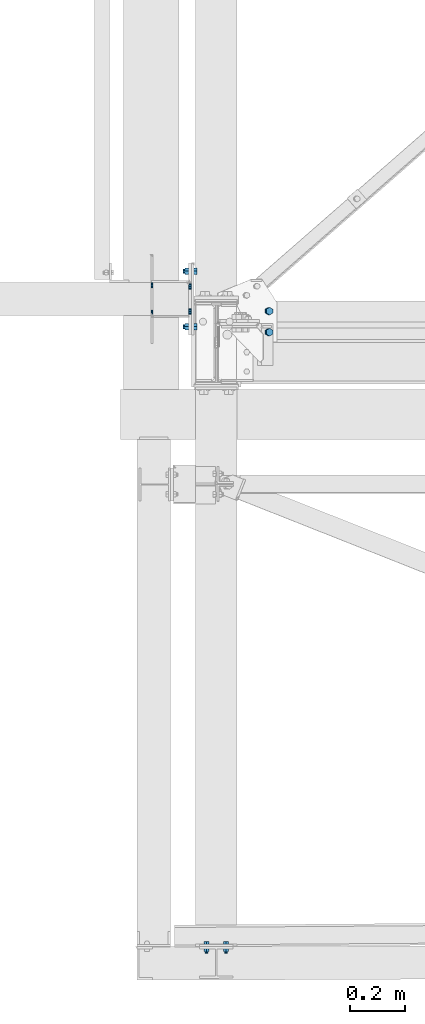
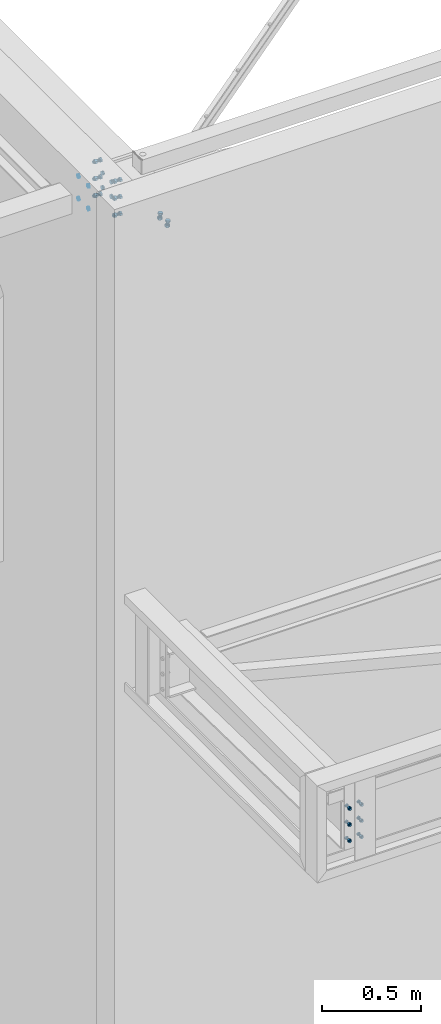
# One storey, part 20 of 3134: 5 mechanical fasteners, 4 elements without a shape of their own.
"""IFC2X3 building model written with IfcOpenShell, lengths in millimetres."""

from ifc_helpers import new_model, si_unit, frame, origin_with_axes, place, context, subcontext, project, spatial, faceted_brep, source, transform, mapped, material, type_object, element, aggregate, save


model = new_model("IFC2X3")

# Units and contexts
model_context = context("Model", 3, precision=1e-05, world=origin_with_axes())
body_context = subcontext(model_context, "Body", "Model", "MODEL_VIEW")
ifc_project = project(units=[si_unit("LENGTHUNIT", "METRE", prefix="MILLI"), si_unit("AREAUNIT", "SQUARE_METRE"), si_unit("VOLUMEUNIT", "CUBIC_METRE"), si_unit("MASSUNIT", "GRAM", prefix="KILO"), si_unit("TIMEUNIT", "SECOND"), si_unit("PLANEANGLEUNIT", "RADIAN"), si_unit("SOLIDANGLEUNIT", "STERADIAN"), si_unit("THERMODYNAMICTEMPERATUREUNIT", "DEGREE_CELSIUS"), si_unit("LUMINOUSINTENSITYUNIT", "LUMEN")], contexts=[model_context])

# Site, building, storey
site_placement = place(None, origin_with_axes())
site = spatial("IfcSite", under=ifc_project, at=site_placement, CompositionType="ELEMENT")
building_placement = place(site_placement, origin_with_axes())
building = spatial("IfcBuilding", under=site, at=building_placement, Name="Undefined", CompositionType="ELEMENT")
storey_placement = place(building_placement, origin_with_axes())
storey = spatial("IfcBuildingStorey", under=building, at=storey_placement, Name="Undefined", CompositionType="ELEMENT", Elevation=0.0)

# Assembly, mechanical fastener
assembly_1_placement = place(storey_placement, origin_with_axes())
assembly_1 = element("IfcElementAssembly", 1, at=assembly_1_placement, inside=storey, Name="UPN120", AssemblyPlace="NOTDEFINED", PredefinedType="RIGID_FRAME")
ifc_material = material(Name="8.8")
mechanical_fastener_type = type_object("IfcMechanicalFastenerType", Name="Bolt assembly")
shared_shape_1 = source(origin_with_axes(), body_context, "Body", "Brep", [
    faceted_brep([(10.9696551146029, -7.99980031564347, 0.0), (5.48482755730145, -7.99980031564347, 9.5), (-5.48482755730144, -7.99980031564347, 9.5), (-10.9696551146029, -7.99980031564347, 1.34339530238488e-15), (-5.48482755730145, -7.99980031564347, -9.5), (5.48482755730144, -7.99980031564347, -9.50000000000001), (5.48482755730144, 0.000199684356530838, -9.50000000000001), (-5.48482755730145, 0.000199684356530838, -9.5), (-10.9696551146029, 0.000199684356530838, 1.34339530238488e-15), (-5.48482755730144, 0.000199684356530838, 9.5), (5.48482755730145, 0.000199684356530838, 9.5), (10.9696551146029, 0.000199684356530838, 0.0), (6.0, 0.000199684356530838, 0.0), (5.19615242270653, 0.000199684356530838, 3.00000000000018), (2.99999999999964, 0.000199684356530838, 5.19615242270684), (-6.21801588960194e-13, 0.000199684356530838, 6.0), (-3.00000000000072, 0.000199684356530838, 5.19615242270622), (-5.19615242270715, 0.000199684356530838, 2.9999999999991), (-6.0, 0.000199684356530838, -1.24360317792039e-12), (-5.19615242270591, 0.000199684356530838, -3.00000000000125), (-2.99999999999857, 0.000199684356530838, -5.19615242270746), (1.85874342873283e-12, 0.000199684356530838, -6.0), (3.00000000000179, 0.000199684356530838, -5.1961524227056), (5.19615242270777, 0.000199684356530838, -2.99999999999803), (5.19615242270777, 35.0001996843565, -2.99999999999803), (3.00000000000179, 35.0001996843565, -5.1961524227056), (1.85874342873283e-12, 35.0001996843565, -6.0), (-2.99999999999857, 35.0001996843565, -5.19615242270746), (-5.19615242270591, 35.0001996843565, -3.00000000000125), (-6.0, 35.0001996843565, -1.24360317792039e-12), (-5.19615242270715, 35.0001996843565, 2.9999999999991), (-3.00000000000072, 35.0001996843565, 5.19615242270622), (-6.21801588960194e-13, 35.0001996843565, 6.0), (2.99999999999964, 35.0001996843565, 5.19615242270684), (5.19615242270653, 35.0001996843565, 3.00000000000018), (6.0, 35.0001996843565, 0.0), (10.9696551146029, 18.0000503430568, 0.0), (5.48482755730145, 18.0000503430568, 9.5), (-5.48482755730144, 18.0000503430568, 9.5), (-10.9696551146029, 18.0000503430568, 1.34339530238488e-15), (-5.48482755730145, 18.0000503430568, -9.5), (5.48482755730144, 18.0000503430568, -9.50000000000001), (5.48482755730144, 28.0000503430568, -9.50000000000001), (-5.48482755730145, 28.0000503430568, -9.5), (-10.9696551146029, 28.0000503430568, 1.34339530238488e-15), (-5.48482755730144, 28.0000503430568, 9.5), (5.48482755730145, 28.0000503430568, 9.5), (10.9696551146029, 28.0000503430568, 0.0)], [[[0, 1, 2, 3, 4, 5]], [[6, 7, 8, 9, 10, 11]], [[0, 11, 10, 1]], [[1, 10, 9, 2]], [[2, 9, 8, 3]], [[3, 8, 7, 4]], [[4, 7, 6, 5]], [[5, 6, 11, 0]], [[12, 13, 14, 15, 16, 17, 18, 19, 20, 21, 22, 23]], [[24, 25, 26, 27, 28, 29, 30, 31, 32, 33, 34, 35]], [[12, 35, 34, 13]], [[13, 34, 33, 14]], [[14, 33, 32, 15]], [[15, 32, 31, 16]], [[16, 31, 30, 17]], [[17, 30, 29, 18]], [[18, 29, 28, 19]], [[19, 28, 27, 20]], [[20, 27, 26, 21]], [[21, 26, 25, 22]], [[22, 25, 24, 23]], [[23, 24, 35, 12]], [[36, 37, 38, 39, 40, 41]], [[42, 43, 44, 45, 46, 47]], [[36, 47, 46, 37]], [[37, 46, 45, 38]], [[38, 45, 44, 39]], [[39, 44, 43, 40]], [[40, 43, 42, 41]], [[41, 42, 47, 36]]]),
    faceted_brep([(7.0, 0.100152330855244, 0.0), (6.06217782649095, 0.100152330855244, 3.50000000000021), (3.49999999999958, 0.100152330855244, 6.06217782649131), (-7.25435187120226e-13, 0.100152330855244, 7.0), (-3.50000000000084, 0.100152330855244, 6.06217782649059), (-6.06217782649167, 0.100152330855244, 3.49999999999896), (-7.0, 0.100152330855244, -1.45087037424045e-12), (-6.06217782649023, 0.100152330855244, -3.50000000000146), (-3.49999999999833, 0.100152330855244, -6.06217782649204), (2.1685340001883e-12, 0.100152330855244, -7.0), (3.50000000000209, 0.100152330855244, -6.06217782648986), (6.0621778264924, 0.100152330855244, -3.4999999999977), (6.0621778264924, 10.1001996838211, -3.4999999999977), (3.50000000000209, 10.1001996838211, -6.06217782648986), (2.1685340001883e-12, 10.1001996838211, -7.0), (-3.49999999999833, 10.1001996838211, -6.06217782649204), (-6.06217782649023, 10.1001996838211, -3.50000000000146), (-7.0, 10.1001996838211, -1.45087037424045e-12), (-6.06217782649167, 10.1001996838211, 3.49999999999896), (-3.50000000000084, 10.1001996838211, 6.06217782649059), (-7.25435187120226e-13, 10.1001996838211, 7.0), (3.49999999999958, 10.1001996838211, 6.06217782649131), (6.06217782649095, 10.1001996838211, 3.50000000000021), (7.0, 10.1001996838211, 0.0), (7.0, 9.90005034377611, 0.0), (6.06217782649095, 9.90005034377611, 3.50000000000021), (3.49999999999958, 9.90005034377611, 6.06217782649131), (-7.25435187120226e-13, 9.90005034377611, 7.0), (-3.50000000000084, 9.90005034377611, 6.06217782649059), (-6.06217782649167, 9.90005034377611, 3.49999999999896), (-7.0, 9.90005034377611, -1.45087037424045e-12), (-6.06217782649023, 9.90005034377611, -3.50000000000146), (-3.49999999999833, 9.90005034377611, -6.06217782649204), (2.1685340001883e-12, 9.90005034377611, -7.0), (3.50000000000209, 9.90005034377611, -6.06217782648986), (6.0621778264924, 9.90005034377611, -3.4999999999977), (6.0621778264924, 18.0000503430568, -3.4999999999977), (3.50000000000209, 18.0000503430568, -6.06217782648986), (2.1685340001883e-12, 18.0000503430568, -7.0), (-3.49999999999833, 18.0000503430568, -6.06217782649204), (-6.06217782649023, 18.0000503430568, -3.50000000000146), (-7.0, 18.0000503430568, -1.45087037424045e-12), (-6.06217782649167, 18.0000503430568, 3.49999999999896), (-3.50000000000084, 18.0000503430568, 6.06217782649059), (-7.25435187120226e-13, 18.0000503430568, 7.0), (3.49999999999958, 18.0000503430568, 6.06217782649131), (6.06217782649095, 18.0000503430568, 3.50000000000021), (7.0, 18.0000503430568, 0.0)], [[[0, 1, 2, 3, 4, 5, 6, 7, 8, 9, 10, 11]], [[12, 13, 14, 15, 16, 17, 18, 19, 20, 21, 22, 23]], [[0, 23, 22, 1]], [[1, 22, 21, 2]], [[2, 21, 20, 3]], [[3, 20, 19, 4]], [[4, 19, 18, 5]], [[5, 18, 17, 6]], [[6, 17, 16, 7]], [[7, 16, 15, 8]], [[8, 15, 14, 9]], [[9, 14, 13, 10]], [[10, 13, 12, 11]], [[11, 12, 23, 0]], [[24, 25, 26, 27, 28, 29, 30, 31, 32, 33, 34, 35]], [[36, 37, 38, 39, 40, 41, 42, 43, 44, 45, 46, 47]], [[24, 47, 46, 25]], [[25, 46, 45, 26]], [[26, 45, 44, 27]], [[27, 44, 43, 28]], [[28, 43, 42, 29]], [[29, 42, 41, 30]], [[30, 41, 40, 31]], [[31, 40, 39, 32]], [[32, 39, 38, 33]], [[33, 38, 37, 34]], [[34, 37, 36, 35]], [[35, 36, 47, 24]]]),
])
mechanical_fastener_1_placement = place(assembly_1_placement, frame((20850.0047974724, -2244.67493834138, 3310.21815992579), z_axis=(-0.999998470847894, -0.00174880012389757, 0.0), x_axis=(0.0, 0.0, -1.0)))
mechanical_fastener_1 = element("IfcMechanicalFastener", 2, at=mechanical_fastener_1_placement, type_object=mechanical_fastener_type, material=ifc_material, Name="Bolt assembly", NominalDiameter=12.0, NominalLength=35.0, context=body_context, shape_type="MappedRepresentation", body=[
    mapped(shared_shape_1, transform((0.0, 0.0, -35.0))),
    mapped(shared_shape_1, transform((100.0, 2.05545802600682e-10, -35.0000000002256))),
    mapped(shared_shape_1, transform((200.0, 2.05545802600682e-10, -35.0000000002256))),
    mapped(shared_shape_1, transform((0.0, 0.0, 35.0))),
    mapped(shared_shape_1, transform((100.0, -2.07364792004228e-10, 35.0000000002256))),
    mapped(shared_shape_1, transform((200.0, -2.07364792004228e-10, 35.0000000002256))),
])
aggregate(assembly_1, [mechanical_fastener_1])

# Assembly, mechanical fasteners
assembly_2_placement = place(storey_placement, origin_with_axes())
assembly_2 = element("IfcElementAssembly", 3, at=assembly_2_placement, inside=storey, AssemblyPlace="NOTDEFINED", PredefinedType="RIGID_FRAME")
shared_shape_2 = source(origin_with_axes(), body_context, "Body", "Brep", [
    faceted_brep([(9.0, -3.46568413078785e-07, 0.0), (7.79422863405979, -3.46568413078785e-07, 4.50000000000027), (4.49999999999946, -3.46568413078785e-07, 7.79422863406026), (-9.3270238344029e-13, -3.46568413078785e-07, 9.0), (-4.50000000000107, -3.46568413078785e-07, 7.79422863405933), (-7.79422863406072, -3.46568413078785e-07, 4.49999999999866), (-9.0, -3.46568413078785e-07, -1.86540476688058e-12), (-7.79422863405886, -3.46568413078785e-07, -4.50000000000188), (-4.49999999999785, -3.46568413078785e-07, -7.79422863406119), (2.78811514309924e-12, -3.46568413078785e-07, -9.0), (4.50000000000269, -3.46568413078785e-07, -7.7942286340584), (7.79422863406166, -3.46568413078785e-07, -4.49999999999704), (7.79422863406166, 6.1, -4.49999999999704), (4.50000000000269, 6.1, -7.7942286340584), (2.78811514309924e-12, 6.1, -9.0), (-4.49999999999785, 6.1, -7.79422863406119), (-7.79422863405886, 6.1, -4.50000000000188), (-9.0, 6.1, -1.86540476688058e-12), (-7.79422863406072, 6.1, 4.49999999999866), (-4.50000000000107, 6.1, 7.79422863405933), (-9.3270238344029e-13, 6.1, 9.0), (4.49999999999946, 6.1, 7.79422863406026), (7.79422863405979, 6.1, 4.50000000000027), (9.0, 6.1, 0.0)], [[[0, 1, 2, 3, 4, 5, 6, 7, 8, 9, 10, 11]], [[12, 13, 14, 15, 16, 17, 18, 19, 20, 21, 22, 23]], [[0, 23, 22, 1]], [[1, 22, 21, 2]], [[2, 21, 20, 3]], [[3, 20, 19, 4]], [[4, 19, 18, 5]], [[5, 18, 17, 6]], [[6, 17, 16, 7]], [[7, 16, 15, 8]], [[8, 15, 14, 9]], [[9, 14, 13, 10]], [[10, 13, 12, 11]], [[11, 12, 23, 0]]]),
])
mechanical_fastener_2_placement = place(assembly_2_placement, frame((20615.0, 132.001907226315, 5760.0), z_axis=(0.0, 0.0, 1.0), x_axis=(0.0, -1.0, 0.0)))
mechanical_fastener_2 = element("IfcMechanicalFastener", 4, at=mechanical_fastener_2_placement, type_object=mechanical_fastener_type, material=ifc_material, Name="Bolt assembly", NominalDiameter=16.0, NominalLength=6.0, context=body_context, shape_type="MappedRepresentation", body=[
    mapped(shared_shape_2, transform((0.0, 0.0, -70.0))),
    mapped(shared_shape_2, transform((100.0, 0.0, -70.0))),
    mapped(shared_shape_2, transform((0.0, 0.0, 70.0))),
    mapped(shared_shape_2, transform((100.0, 0.0, 70.0))),
])
shared_shape_3 = source(origin_with_axes(), body_context, "Body", "Brep", [
    faceted_brep([(11.0, 0.0, 0.0), (9.52627944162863, 0.0, 5.50000000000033), (5.49999999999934, 0.0, 9.5262794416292), (-1.13996957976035e-12, 0.0, 11.0), (-5.50000000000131, 0.0, 9.52627944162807), (-9.52627944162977, 0.0, 5.49999999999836), (-11.0, 0.0, -2.27993915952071e-12), (-9.5262794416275, 0.0, -5.5000000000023), (-5.49999999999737, 0.0, -9.52627944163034), (3.40769628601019e-12, 0.0, -11.0), (5.50000000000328, 0.0, -9.52627944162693), (9.52627944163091, 0.0, -5.49999999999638), (9.52627944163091, 10.1, -5.49999999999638), (5.50000000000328, 10.1, -9.52627944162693), (3.40769628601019e-12, 10.1, -11.0), (-5.49999999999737, 10.1, -9.52627944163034), (-9.5262794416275, 10.1, -5.5000000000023), (-11.0, 10.1, -2.27993915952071e-12), (-9.52627944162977, 10.1, 5.49999999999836), (-5.50000000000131, 10.1, 9.52627944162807), (-1.13996957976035e-12, 10.1, 11.0), (5.49999999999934, 10.1, 9.5262794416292), (9.52627944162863, 10.1, 5.50000000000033), (11.0, 10.1, 0.0)], [[[0, 1, 2, 3, 4, 5, 6, 7, 8, 9, 10, 11]], [[12, 13, 14, 15, 16, 17, 18, 19, 20, 21, 22, 23]], [[0, 23, 22, 1]], [[1, 22, 21, 2]], [[2, 21, 20, 3]], [[3, 20, 19, 4]], [[4, 19, 18, 5]], [[5, 18, 17, 6]], [[6, 17, 16, 7]], [[7, 16, 15, 8]], [[8, 15, 14, 9]], [[9, 14, 13, 10]], [[10, 13, 12, 11]], [[11, 12, 23, 0]]]),
])
mechanical_fastener_3_placement = place(assembly_2_placement, frame((20750.0, 127.001907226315, 5760.0), z_axis=(0.0, 0.0, 1.0), x_axis=(0.0, -1.0, 0.0)))
mechanical_fastener_3 = element("IfcMechanicalFastener", 5, at=mechanical_fastener_3_placement, type_object=mechanical_fastener_type, material=ifc_material, Name="Bolt assembly", NominalDiameter=20.0, NominalLength=10.0, context=body_context, shape_type="MappedRepresentation", body=[
    mapped(shared_shape_3, transform((0.0, 0.0, -45.0))),
    mapped(shared_shape_3, transform((90.0, 0.0, -45.0))),
    mapped(shared_shape_3, transform((0.0, 0.0, 45.0))),
    mapped(shared_shape_3, transform((90.0, 0.0, 45.0))),
])
aggregate(assembly_2, [mechanical_fastener_2, mechanical_fastener_3])

# Assembly, mechanical fastener
assembly_3_placement = place(storey_placement, origin_with_axes())
assembly_3 = element("IfcElementAssembly", 6, at=assembly_3_placement, inside=storey, Name="300", AssemblyPlace="NOTDEFINED", PredefinedType="RIGID_FRAME")
shared_shape_4 = source(origin_with_axes(), body_context, "Body", "Brep", [
    faceted_brep([(13.856406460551, -30.0, 0.0), (6.92820323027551, -30.0, 12.0), (-6.92820323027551, -30.0, 12.0), (-13.856406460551, -30.0, 1.69692038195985e-15), (-6.92820323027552, -30.0, -12.0), (6.9282032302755, -30.0, -12.0), (6.9282032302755, -20.0, -12.0), (-6.92820323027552, -20.0, -12.0), (-13.856406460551, -20.0, 1.69692038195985e-15), (-6.92820323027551, -20.0, 12.0), (6.92820323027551, -20.0, 12.0), (13.856406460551, -20.0, 0.0), (8.0, -20.0, 0.0), (6.92820323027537, -20.0, 4.00000000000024), (3.99999999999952, -20.0, 6.92820323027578), (-8.29068785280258e-13, -20.0, 8.0), (-4.00000000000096, -20.0, 6.92820323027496), (-6.9282032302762, -20.0, 3.99999999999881), (-8.0, -20.0, -1.65813757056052e-12), (-6.92820323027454, -20.0, -4.00000000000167), (-3.99999999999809, -20.0, -6.92820323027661), (2.47832457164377e-12, -20.0, -8.0), (4.00000000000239, -20.0, -6.92820323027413), (6.92820323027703, -20.0, -3.99999999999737), (6.92820323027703, 20.0, -3.99999999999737), (4.00000000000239, 20.0, -6.92820323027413), (2.47832457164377e-12, 20.0, -8.0), (-3.99999999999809, 20.0, -6.92820323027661), (-6.92820323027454, 20.0, -4.00000000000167), (-8.0, 20.0, -1.65813757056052e-12), (-6.9282032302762, 20.0, 3.99999999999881), (-4.00000000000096, 20.0, 6.92820323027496), (-8.29068785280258e-13, 20.0, 8.0), (3.99999999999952, 20.0, 6.92820323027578), (6.92820323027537, 20.0, 4.00000000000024), (8.0, 20.0, 0.0), (13.856406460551, 0.0, 0.0), (6.92820323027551, 0.0, 12.0), (-6.92820323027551, 0.0, 12.0), (-13.856406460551, 0.0, 1.69692038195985e-15), (-6.92820323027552, 0.0, -12.0), (6.9282032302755, 0.0, -12.0), (6.9282032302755, 12.9999996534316, -12.0), (-6.92820323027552, 12.9999996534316, -12.0), (-13.856406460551, 12.9999996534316, 1.69692038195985e-15), (-6.92820323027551, 12.9999996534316, 12.0), (6.92820323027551, 12.9999996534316, 12.0), (13.856406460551, 12.9999996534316, 0.0)], [[[0, 1, 2, 3, 4, 5]], [[6, 7, 8, 9, 10, 11]], [[0, 11, 10, 1]], [[1, 10, 9, 2]], [[2, 9, 8, 3]], [[3, 8, 7, 4]], [[4, 7, 6, 5]], [[5, 6, 11, 0]], [[12, 13, 14, 15, 16, 17, 18, 19, 20, 21, 22, 23]], [[24, 25, 26, 27, 28, 29, 30, 31, 32, 33, 34, 35]], [[12, 35, 34, 13]], [[13, 34, 33, 14]], [[14, 33, 32, 15]], [[15, 32, 31, 16]], [[16, 31, 30, 17]], [[17, 30, 29, 18]], [[18, 29, 28, 19]], [[19, 28, 27, 20]], [[20, 27, 26, 21]], [[21, 26, 25, 22]], [[22, 25, 24, 23]], [[23, 24, 35, 12]], [[36, 37, 38, 39, 40, 41]], [[42, 43, 44, 45, 46, 47]], [[36, 47, 46, 37]], [[37, 46, 45, 38]], [[38, 45, 44, 39]], [[39, 44, 43, 40]], [[40, 43, 42, 41]], [[41, 42, 47, 36]]]),
    faceted_brep([(9.0, -10.1000003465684, 0.0), (7.79422863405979, -10.1000003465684, 4.50000000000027), (4.49999999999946, -10.1000003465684, 7.79422863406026), (-9.3270238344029e-13, -10.1000003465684, 9.0), (-4.50000000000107, -10.1000003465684, 7.79422863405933), (-7.79422863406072, -10.1000003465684, 4.49999999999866), (-9.0, -10.1000003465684, -1.86540476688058e-12), (-7.79422863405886, -10.1000003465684, -4.50000000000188), (-4.49999999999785, -10.1000003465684, -7.79422863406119), (2.78811514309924e-12, -10.1000003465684, -9.0), (4.50000000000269, -10.1000003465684, -7.7942286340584), (7.79422863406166, -10.1000003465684, -4.49999999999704), (7.79422863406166, -3.46568413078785e-07, -4.49999999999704), (4.50000000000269, -3.46568413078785e-07, -7.7942286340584), (2.78811514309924e-12, -3.46568413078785e-07, -9.0), (-4.49999999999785, -3.46568413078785e-07, -7.79422863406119), (-7.79422863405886, -3.46568413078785e-07, -4.50000000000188), (-9.0, -3.46568413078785e-07, -1.86540476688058e-12), (-7.79422863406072, -3.46568413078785e-07, 4.49999999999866), (-4.50000000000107, -3.46568413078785e-07, 7.79422863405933), (-9.3270238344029e-13, -3.46568413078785e-07, 9.0), (4.49999999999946, -3.46568413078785e-07, 7.79422863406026), (7.79422863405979, -3.46568413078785e-07, 4.50000000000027), (9.0, -3.46568413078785e-07, 0.0), (9.0, -19.9, 0.0), (7.79422863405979, -19.9, 4.50000000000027), (4.49999999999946, -19.9, 7.79422863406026), (-9.3270238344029e-13, -19.9, 9.0), (-4.50000000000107, -19.9, 7.79422863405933), (-7.79422863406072, -19.9, 4.49999999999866), (-9.0, -19.9, -1.86540476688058e-12), (-7.79422863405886, -19.9, -4.50000000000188), (-4.49999999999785, -19.9, -7.79422863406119), (2.78811514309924e-12, -19.9, -9.0), (4.50000000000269, -19.9, -7.7942286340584), (7.79422863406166, -19.9, -4.49999999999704), (7.79422863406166, -9.89999997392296, -4.49999999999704), (4.50000000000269, -9.89999997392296, -7.7942286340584), (2.78811514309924e-12, -9.89999997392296, -9.0), (-4.49999999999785, -9.89999997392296, -7.79422863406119), (-7.79422863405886, -9.89999997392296, -4.50000000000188), (-9.0, -9.89999997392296, -1.86540476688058e-12), (-7.79422863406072, -9.89999997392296, 4.49999999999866), (-4.50000000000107, -9.89999997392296, 7.79422863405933), (-9.3270238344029e-13, -9.89999997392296, 9.0), (4.49999999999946, -9.89999997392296, 7.79422863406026), (7.79422863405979, -9.89999997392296, 4.50000000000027), (9.0, -9.89999997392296, 0.0)], [[[0, 1, 2, 3, 4, 5, 6, 7, 8, 9, 10, 11]], [[12, 13, 14, 15, 16, 17, 18, 19, 20, 21, 22, 23]], [[0, 23, 22, 1]], [[1, 22, 21, 2]], [[2, 21, 20, 3]], [[3, 20, 19, 4]], [[4, 19, 18, 5]], [[5, 18, 17, 6]], [[6, 17, 16, 7]], [[7, 16, 15, 8]], [[8, 15, 14, 9]], [[9, 14, 13, 10]], [[10, 13, 12, 11]], [[11, 12, 23, 0]], [[24, 25, 26, 27, 28, 29, 30, 31, 32, 33, 34, 35]], [[36, 37, 38, 39, 40, 41, 42, 43, 44, 45, 46, 47]], [[24, 47, 46, 25]], [[25, 46, 45, 26]], [[26, 45, 44, 27]], [[27, 44, 43, 28]], [[28, 43, 42, 29]], [[29, 42, 41, 30]], [[30, 41, 40, 31]], [[31, 40, 39, 32]], [[32, 39, 38, 33]], [[33, 38, 37, 34]], [[34, 37, 36, 35]], [[35, 36, 47, 24]]]),
])
mechanical_fastener_4_placement = place(assembly_3_placement, frame((20750.0, 82.0019072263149, 5846.5), z_axis=(0.0, 1.0, 0.0), x_axis=(0.0, 0.0, -1.0)))
mechanical_fastener_4 = element("IfcMechanicalFastener", 7, at=mechanical_fastener_4_placement, type_object=mechanical_fastener_type, material=ifc_material, Name="Bolt assembly", NominalDiameter=16.0, NominalLength=40.0, context=body_context, shape_type="MappedRepresentation", body=[
    mapped(shared_shape_4, transform((0.0, 0.0, -100.0))),
    mapped(shared_shape_4, transform((105.0, 0.0, -100.0))),
    mapped(shared_shape_4, transform((210.0, 0.0, -100.0))),
    mapped(shared_shape_4, transform((0.0, 0.0, 100.0))),
    mapped(shared_shape_4, transform((105.0, 0.0, 100.0))),
    mapped(shared_shape_4, transform((210.0, 0.0, 100.0))),
])
aggregate(assembly_3, [mechanical_fastener_4])

assembly_4_placement = place(storey_placement, origin_with_axes())
assembly_4 = element("IfcElementAssembly", 8, at=assembly_4_placement, inside=storey, Name="300", AssemblyPlace="NOTDEFINED", PredefinedType="RIGID_FRAME")
shared_shape_5 = source(origin_with_axes(), body_context, "Body", "Brep", [
    faceted_brep([(13.856406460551, -19.1017951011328, 0.0), (6.92820323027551, -19.1017951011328, 12.0), (-6.92820323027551, -19.1017951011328, 12.0), (-13.856406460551, -19.1017951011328, 1.69692038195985e-15), (-6.92820323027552, -19.1017951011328, -12.0), (6.9282032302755, -19.1017951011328, -12.0), (6.9282032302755, -9.10179510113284, -12.0), (-6.92820323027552, -9.10179510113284, -12.0), (-13.856406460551, -9.10179510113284, 1.69692038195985e-15), (-6.92820323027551, -9.10179510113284, 12.0), (6.92820323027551, -9.10179510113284, 12.0), (13.856406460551, -9.10179510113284, 0.0), (8.0, -9.10179510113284, 0.0), (6.92820323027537, -9.10179510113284, 4.00000000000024), (3.99999999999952, -9.10179510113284, 6.92820323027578), (-8.29068785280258e-13, -9.10179510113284, 8.0), (-4.00000000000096, -9.10179510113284, 6.92820323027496), (-6.9282032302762, -9.10179510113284, 3.99999999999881), (-8.0, -9.10179510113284, -1.65813757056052e-12), (-6.92820323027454, -9.10179510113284, -4.00000000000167), (-3.99999999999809, -9.10179510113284, -6.92820323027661), (2.47832457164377e-12, -9.10179510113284, -8.0), (4.00000000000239, -9.10179510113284, -6.92820323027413), (6.92820323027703, -9.10179510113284, -3.99999999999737), (6.92820323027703, 25.8982048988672, -3.99999999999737), (4.00000000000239, 25.8982048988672, -6.92820323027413), (2.47832457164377e-12, 25.8982048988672, -8.0), (-3.99999999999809, 25.8982048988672, -6.92820323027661), (-6.92820323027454, 25.8982048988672, -4.00000000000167), (-8.0, 25.8982048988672, -1.65813757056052e-12), (-6.9282032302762, 25.8982048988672, 3.99999999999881), (-4.00000000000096, 25.8982048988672, 6.92820323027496), (-8.29068785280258e-13, 25.8982048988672, 8.0), (3.99999999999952, 25.8982048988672, 6.92820323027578), (6.92820323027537, 25.8982048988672, 4.00000000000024), (8.0, 25.8982048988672, 0.0), (13.856406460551, 8.09821488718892, 0.0), (6.92820323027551, 8.09821488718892, 12.0), (-6.92820323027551, 8.09821488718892, 12.0), (-13.856406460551, 8.09821488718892, 1.69692038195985e-15), (-6.92820323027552, 8.09821488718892, -12.0), (6.9282032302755, 8.09821488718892, -12.0), (6.9282032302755, 21.0982148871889, -12.0), (-6.92820323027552, 21.0982148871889, -12.0), (-13.856406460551, 21.0982148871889, 1.69692038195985e-15), (-6.92820323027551, 21.0982148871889, 12.0), (6.92820323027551, 21.0982148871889, 12.0), (13.856406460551, 21.0982148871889, 0.0)], [[[0, 1, 2, 3, 4, 5]], [[6, 7, 8, 9, 10, 11]], [[0, 11, 10, 1]], [[1, 10, 9, 2]], [[2, 9, 8, 3]], [[3, 8, 7, 4]], [[4, 7, 6, 5]], [[5, 6, 11, 0]], [[12, 13, 14, 15, 16, 17, 18, 19, 20, 21, 22, 23]], [[24, 25, 26, 27, 28, 29, 30, 31, 32, 33, 34, 35]], [[12, 35, 34, 13]], [[13, 34, 33, 14]], [[14, 33, 32, 15]], [[15, 32, 31, 16]], [[16, 31, 30, 17]], [[17, 30, 29, 18]], [[18, 29, 28, 19]], [[19, 28, 27, 20]], [[20, 27, 26, 21]], [[21, 26, 25, 22]], [[22, 25, 24, 23]], [[23, 24, 35, 12]], [[36, 37, 38, 39, 40, 41]], [[42, 43, 44, 45, 46, 47]], [[36, 47, 46, 37]], [[37, 46, 45, 38]], [[38, 45, 44, 39]], [[39, 44, 43, 40]], [[40, 43, 42, 41]], [[41, 42, 47, 36]]]),
    faceted_brep([(9.0, -0.00178511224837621, 0.0), (7.79422863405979, -0.00178511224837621, 4.50000000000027), (4.49999999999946, -0.00178511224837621, 7.79422863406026), (-9.3270238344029e-13, -0.00178511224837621, 9.0), (-4.50000000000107, -0.00178511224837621, 7.79422863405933), (-7.79422863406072, -0.00178511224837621, 4.49999999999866), (-9.0, -0.00178511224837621, -1.86540476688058e-12), (-7.79422863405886, -0.00178511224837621, -4.50000000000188), (-4.49999999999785, -0.00178511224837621, -7.79422863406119), (2.78811514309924e-12, -0.00178511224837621, -9.0), (4.50000000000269, -0.00178511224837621, -7.7942286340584), (7.79422863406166, -0.00178511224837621, -4.49999999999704), (7.79422863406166, 8.09821488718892, -4.49999999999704), (4.50000000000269, 8.09821488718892, -7.7942286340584), (2.78811514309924e-12, 8.09821488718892, -9.0), (-4.49999999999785, 8.09821488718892, -7.79422863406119), (-7.79422863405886, 8.09821488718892, -4.50000000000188), (-9.0, 8.09821488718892, -1.86540476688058e-12), (-7.79422863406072, 8.09821488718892, 4.49999999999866), (-4.50000000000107, 8.09821488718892, 7.79422863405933), (-9.3270238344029e-13, 8.09821488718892, 9.0), (4.49999999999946, 8.09821488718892, 7.79422863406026), (7.79422863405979, 8.09821488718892, 4.50000000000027), (9.0, 8.09821488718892, 0.0), (9.0, -9.00179510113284, 0.0), (7.79422863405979, -9.00179510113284, 4.50000000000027), (4.49999999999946, -9.00179510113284, 7.79422863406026), (-9.3270238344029e-13, -9.00179510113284, 9.0), (-4.50000000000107, -9.00179510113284, 7.79422863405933), (-7.79422863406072, -9.00179510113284, 4.49999999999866), (-9.0, -9.00179510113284, -1.86540476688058e-12), (-7.79422863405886, -9.00179510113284, -4.50000000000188), (-4.49999999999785, -9.00179510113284, -7.79422863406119), (2.78811514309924e-12, -9.00179510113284, -9.0), (4.50000000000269, -9.00179510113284, -7.7942286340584), (7.79422863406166, -9.00179510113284, -4.49999999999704), (7.79422863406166, 0.19820470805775, -4.49999999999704), (4.50000000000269, 0.19820470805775, -7.7942286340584), (2.78811514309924e-12, 0.19820470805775, -9.0), (-4.49999999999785, 0.19820470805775, -7.79422863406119), (-7.79422863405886, 0.19820470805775, -4.50000000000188), (-9.0, 0.19820470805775, -1.86540476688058e-12), (-7.79422863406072, 0.19820470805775, 4.49999999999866), (-4.50000000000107, 0.19820470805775, 7.79422863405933), (-9.3270238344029e-13, 0.19820470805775, 9.0), (4.49999999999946, 0.19820470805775, 7.79422863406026), (7.79422863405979, 0.19820470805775, 4.50000000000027), (9.0, 0.19820470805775, 0.0)], [[[0, 1, 2, 3, 4, 5, 6, 7, 8, 9, 10, 11]], [[12, 13, 14, 15, 16, 17, 18, 19, 20, 21, 22, 23]], [[0, 23, 22, 1]], [[1, 22, 21, 2]], [[2, 21, 20, 3]], [[3, 20, 19, 4]], [[4, 19, 18, 5]], [[5, 18, 17, 6]], [[6, 17, 16, 7]], [[7, 16, 15, 8]], [[8, 15, 14, 9]], [[9, 14, 13, 10]], [[10, 13, 12, 11]], [[11, 12, 23, 0]], [[24, 25, 26, 27, 28, 29, 30, 31, 32, 33, 34, 35]], [[36, 37, 38, 39, 40, 41, 42, 43, 44, 45, 46, 47]], [[24, 47, 46, 25]], [[25, 46, 45, 26]], [[26, 45, 44, 27]], [[27, 44, 43, 28]], [[28, 43, 42, 29]], [[29, 42, 41, 30]], [[30, 41, 40, 31]], [[31, 40, 39, 32]], [[32, 39, 38, 33]], [[33, 38, 37, 34]], [[34, 37, 36, 35]], [[35, 36, 47, 24]]]),
])
mechanical_fastener_5_placement = place(assembly_4_placement, frame((21040.0348162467, 37.9995130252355, 5496.68063423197), z_axis=(0.992623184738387, 1.63108538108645e-05, -0.12124031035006), x_axis=(1.62000016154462e-05, -0.999999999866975, -1.90000018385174e-06)))
mechanical_fastener_5 = element("IfcMechanicalFastener", 9, at=mechanical_fastener_5_placement, type_object=mechanical_fastener_type, material=ifc_material, Name="Bolt assembly", NominalDiameter=16.0, NominalLength=35.0, context=body_context, shape_type="MappedRepresentation", body=[
    mapped(shared_shape_5, transform((0.0, 0.0, 0.0))),
    mapped(shared_shape_5, transform((76.0, 0.0, 0.0))),
])
aggregate(assembly_4, [mechanical_fastener_5])

save(model, "model.ifc")
